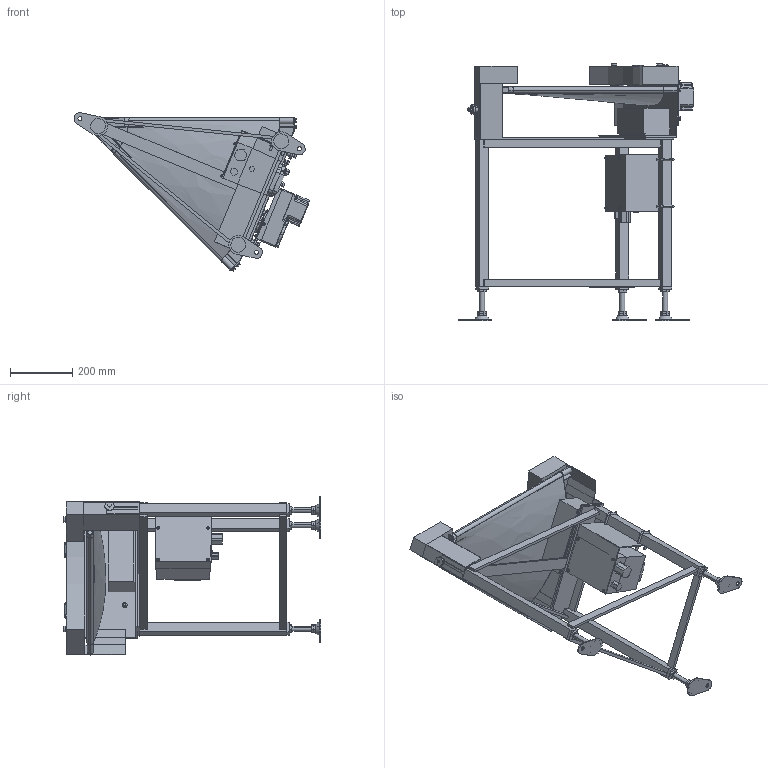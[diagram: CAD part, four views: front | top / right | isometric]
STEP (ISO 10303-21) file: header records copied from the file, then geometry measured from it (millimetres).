
FILE_DESCRIPTION (( 'STEP AP214' ), '1' );
FILE_NAME ('GFBC45-HS400-DC-L.STEP', '2024-01-18T01:33:19', ( '' ), ( '' ), 'SwSTEP 2.0', 'SolidWorks 2017', '' );
FILE_SCHEMA (( 'AUTOMOTIVE_DESIGN' ));
Length unit declared in the file: millimetre
Products named in the file (1): GFBC45-HS400-DC-L
Bounding box: 757.6 x 827.92 x 509.37 mm (x, y, z)
Volume: 14859134.1 mm3; surface area: 2683790.8 mm2
Topology: 65 solids, 66 shells, 1378 faces, 3240 edges, 2081 vertices
Faces by surface type: plane 874, cylinder 408, cone 40, bspline 32, torus 20, sphere 4
Entity records: 46502 total; most frequent: CARTESIAN_POINT 13710, DIRECTION 6704, ORIENTED_EDGE 6432, EDGE_CURVE 3216, AXIS2_PLACEMENT_3D 2288, LINE 2128, VECTOR 2128, VERTEX_POINT 2081
